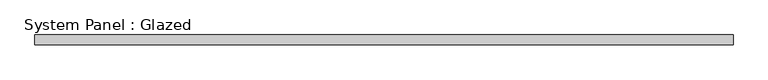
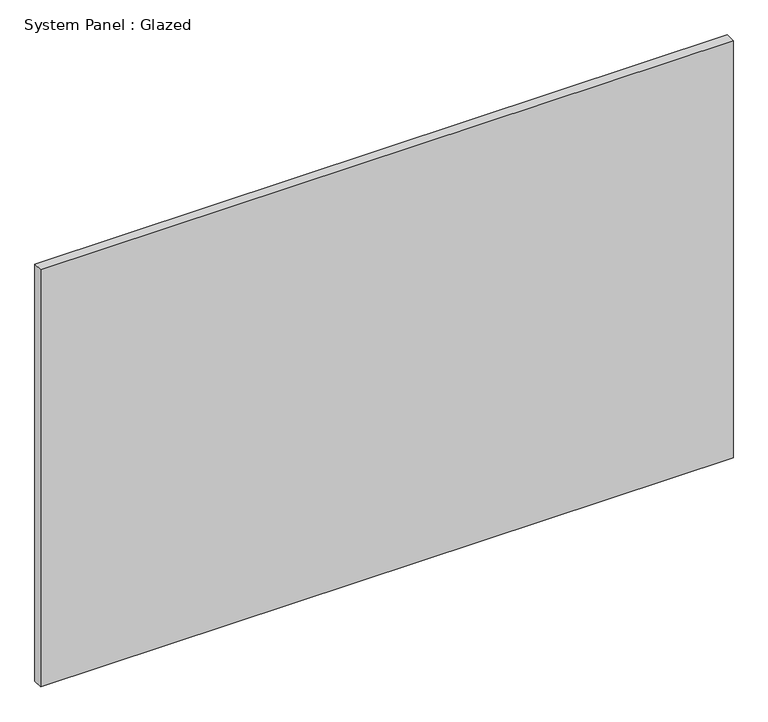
"""IFC4 building model written with IfcOpenShell, lengths in millimetres: plate geometry, System Panel : Glazed."""

import ifcopenshell
import ifcopenshell.guid

model = None  # the IFC model being written
_history = None  # IfcOwnerHistory: only IFC2X3 demands one
_inside = {}  # id of a spatial element -> (the spatial element, [elements in it])
_under = {}  # id of a project, library or spatial element -> (it, [spatial elements below it])
_declared = {}  # id of a project -> (the project, [libraries it declares])
_typed = {}  # id of a type object -> (the type object, [elements of that type])
_made_of = {}  # id of a material, layer set ... -> (it, [elements and type objects made of it])


def new_model(schema):
    """Start an empty IFC model of exactly this schema.

    Asked for "IFC4X3", IfcOpenShell would pick the latest addendum, in which some entities
    have other attributes; the version numbers below select the first issue.
    IFC2X3 requires an IfcOwnerHistory on every rooted entity: one is made here for all.
    """
    global model, _history
    if schema == "IFC4X3":
        model = ifcopenshell.file(schema_version=(4, 3, 0, 0))
    else:
        model = ifcopenshell.file(schema=schema)
    _inside.clear()
    _under.clear()
    _declared.clear()
    _typed.clear()
    _made_of.clear()
    _history = None
    if model.schema == "IFC2X3":
        org = make("IfcOrganization", Name="unknown")
        user = make(
            "IfcPersonAndOrganization",
            ThePerson=make("IfcPerson", FamilyName="unknown"),
            TheOrganization=org,
        )
        app = make(
            "IfcApplication",
            ApplicationDeveloper=org,
            Version="unknown",
            ApplicationFullName="unknown",
            ApplicationIdentifier="unknown",
        )
        _history = make(
            "IfcOwnerHistory",
            OwningUser=user,
            OwningApplication=app,
            ChangeAction="ADDED",
            CreationDate=0,
        )
    return model


def make(cls, **values):
    """One entity of the class cls with the attributes given. An attribute that is None is left unset."""
    return model.create_entity(
        cls, **{name: value for name, value in values.items() if value is not None}
    )


def rooted(cls, **values):
    """An entity with a GlobalId (a new one), such as an element, a storey or a relation."""
    return make(cls, GlobalId=ifcopenshell.guid.new(), OwnerHistory=_history, **values)


def si_unit(unit_type, name, prefix=None):
    """IfcSIUnit, for example si_unit("LENGTHUNIT", "METRE", prefix="MILLI")."""
    return make("IfcSIUnit", UnitType=unit_type, Prefix=prefix, Name=name)


def assignment(units):
    """IfcUnitAssignment: the units of a project."""
    return None if units is None else make("IfcUnitAssignment", Units=units)


def point(xyz):
    """IfcCartesianPoint."""
    return None if xyz is None else make("IfcCartesianPoint", Coordinates=xyz)


def direction(xyz):
    """IfcDirection."""
    return None if xyz is None else make("IfcDirection", DirectionRatios=xyz)


def frame(location, z_axis=None, x_axis=None):
    """IfcAxis2Placement3D, a coordinate frame: its origin and axes. An axis left out is left unset."""
    return make(
        "IfcAxis2Placement3D",
        Location=point(location),
        Axis=direction(z_axis),
        RefDirection=direction(x_axis),
    )


def origin():
    """The frame at (0, 0, 0) with its axes left unset."""
    return frame((0.0, 0.0, 0.0))


def origin_with_axes():
    """The frame at (0, 0, 0) with the z axis (0, 0, 1) and the x axis (1, 0, 0) written out."""
    return frame((0.0, 0.0, 0.0), z_axis=(0.0, 0.0, 1.0), x_axis=(1.0, 0.0, 0.0))


def place(relative_to, where):
    """IfcLocalPlacement: puts the frame where relative to a parent placement (None: the world)."""
    return make(
        "IfcLocalPlacement", PlacementRelTo=relative_to, RelativePlacement=where
    )


def context(
    kind, dimensions, precision=None, world=None, true_north=None, identifier=None
):
    """IfcGeometricRepresentationContext, for example the 3D "Model" context."""
    return make(
        "IfcGeometricRepresentationContext",
        ContextIdentifier=identifier,
        ContextType=kind,
        CoordinateSpaceDimension=dimensions,
        Precision=precision,
        WorldCoordinateSystem=world,
        TrueNorth=true_north,
    )


def project(units=None, contexts=None):
    """IfcProject with its units and contexts."""
    return rooted(
        "IfcProject",
        Name="project",
        RepresentationContexts=contexts,
        UnitsInContext=assignment(units),
    )


def spatial(cls, under=None, at=None, **own):
    """A site, building, storey or space (cls), placed at a placement, below another one or the project."""
    s = rooted(cls, ObjectPlacement=at, **own)
    if under is not None:
        _under.setdefault(under.id(), (under, []))[1].append(s)
    return s


def polyline(points):
    """IfcPolyline through the points."""
    return make("IfcPolyline", Points=[point(p) for p in points])


def outline(outer, holes=None, kind="AREA"):
    """IfcArbitraryClosedProfileDef: a profile drawn as a closed curve; with holes, ...WithVoids."""
    if holes is None:
        return make("IfcArbitraryClosedProfileDef", ProfileType=kind, OuterCurve=outer)
    return make(
        "IfcArbitraryProfileDefWithVoids",
        ProfileType=kind,
        OuterCurve=outer,
        InnerCurves=holes,
    )


def extrude(swept, where, along, depth):
    """IfcExtrudedAreaSolid: the profile swept, set in the frame where, extruded along a direction by depth."""
    return make(
        "IfcExtrudedAreaSolid",
        SweptArea=swept,
        Position=where,
        ExtrudedDirection=direction(along),
        Depth=depth,
    )


def shape(context_of_items, identifier, shape_type, items):
    """IfcShapeRepresentation: the items that make up one representation, for example the "Body"."""
    return make(
        "IfcShapeRepresentation",
        ContextOfItems=context_of_items,
        RepresentationIdentifier=identifier,
        RepresentationType=shape_type,
        Items=items,
    )


def source(mapping_origin, context_of_items, identifier, shape_type, items):
    """IfcRepresentationMap: a shape defined once, which mapped items show again and again."""
    return make(
        "IfcRepresentationMap",
        MappingOrigin=mapping_origin,
        MappedRepresentation=shape(context_of_items, identifier, shape_type, items),
    )


def transform(
    local_origin,
    x_axis=None,
    y_axis=None,
    z_axis=None,
    scale=None,
    scale2=None,
    scale3=None,
    uniform=True,
):
    """IfcCartesianTransformationOperator3D, or its non-uniform kind. x_axis, y_axis, z_axis: its Axis1, 2, 3."""
    if uniform:
        return make(
            "IfcCartesianTransformationOperator3D",
            Axis1=direction(x_axis),
            Axis2=direction(y_axis),
            LocalOrigin=point(local_origin),
            Scale=scale,
            Axis3=direction(z_axis),
        )
    return make(
        "IfcCartesianTransformationOperator3DnonUniform",
        Axis1=direction(x_axis),
        Axis2=direction(y_axis),
        LocalOrigin=point(local_origin),
        Scale=scale,
        Axis3=direction(z_axis),
        Scale2=scale2,
        Scale3=scale3,
    )


def mapped(mapping_source, mapping_target):
    """IfcMappedItem: shows the shape of a source again, moved by a transform."""
    return make(
        "IfcMappedItem", MappingSource=mapping_source, MappingTarget=mapping_target
    )


def made_of(thing, what):
    """Note that an element or type object is made of a material, layer set ...; save() writes the relation."""
    if what is not None:
        _made_of.setdefault(what.id(), (what, []))[1].append(thing)
    return thing


def element(
    cls,
    number,
    at=None,
    inside=None,
    cuts=None,
    type_object=None,
    material=None,
    context=None,
    identifier="Body",
    shape_type=None,
    held_by="IfcProductDefinitionShape",
    body=None,
    shapes=None,
    **own,
):
    """One element of the class cls, such as IfcWall. Its Tag is "e" and its number.

    at: its placement. inside: the storey or other place that contains it. cuts: it is an
    opening in that element (IfcRelVoidsElement). A single representation is given by context,
    identifier, shape_type and body (its items); several are given by shapes. held_by: the class
    of the entity that holds the representations. save() writes the other relations.
    """
    e = rooted(cls, Tag="e%d" % number, ObjectPlacement=at, **own)
    if body is not None:
        shapes = [shape(context, identifier, shape_type, body)]
    if shapes is not None:
        e.Representation = make(held_by, Representations=shapes)
    if inside is not None:
        _inside.setdefault(inside.id(), (inside, []))[1].append(e)
    if cuts is not None:
        rooted(
            "IfcRelVoidsElement", RelatingBuildingElement=cuts, RelatedOpeningElement=e
        )
    if type_object is not None:
        _typed.setdefault(type_object.id(), (type_object, []))[1].append(e)
    return made_of(e, material)


def aggregate(whole, parts):
    """IfcRelAggregates: a whole, such as a stair, and the parts it consists of."""
    return rooted("IfcRelAggregates", RelatingObject=whole, RelatedObjects=parts)


def save(model, path):
    """Write the relations noted so far, then the file.

    IfcRelAggregates (storeys below a building ...), IfcRelContainedInSpatialStructure (elements
    in a storey), IfcRelDefinesByType, IfcRelAssociatesMaterial and IfcRelDeclares: one each for
    every whole, place, type object, material and project.
    """
    for whole, parts in _under.values():
        aggregate(whole, parts)
    for where, things in _inside.values():
        rooted(
            "IfcRelContainedInSpatialStructure",
            RelatedElements=things,
            RelatingStructure=where,
        )
    for kind, things in _typed.values():
        rooted("IfcRelDefinesByType", RelatedObjects=things, RelatingType=kind)
    for what, things in _made_of.values():
        rooted("IfcRelAssociatesMaterial", RelatedObjects=things, RelatingMaterial=what)
    for by, libraries in _declared.values():
        rooted("IfcRelDeclares", RelatingContext=by, RelatedDefinitions=libraries)
    model.write(path)


def system_panel_glazed_f9823347(model_context):
    return source(origin(), model_context, "Body", "SweptSolid", [
        extrude(outline(polyline([(882.65, 19.05), (-882.65, 19.05), (-882.65, 44.45), (882.65, 44.45), (882.65, 19.05)])), origin_with_axes(), (0.0, 0.0, 1.0), 1123.95),
    ])


if __name__ == "__main__":
    model = new_model("IFC4")
    model_context = context("Model", 3, world=origin())
    ifc_project = project(units=[si_unit("LENGTHUNIT", "METRE", prefix="MILLI")], contexts=[model_context])
    site = spatial("IfcSite", under=ifc_project)
    building = spatial("IfcBuilding", under=site)
    placement = place(None, origin())
    system_panel_glazed_shape = system_panel_glazed_f9823347(model_context)
    element("IfcPlate", 1, ObjectType="System Panel : Glazed", at=placement, inside=building, context=model_context, shape_type="MappedRepresentation", body=[
        mapped(system_panel_glazed_shape, transform((0.0, 0.0, 0.0), x_axis=(1.0, 0.0, 0.0), y_axis=(0.0, 1.0, 0.0), z_axis=(0.0, 0.0, 1.0))),
    ])
    save(model, "model.ifc")
